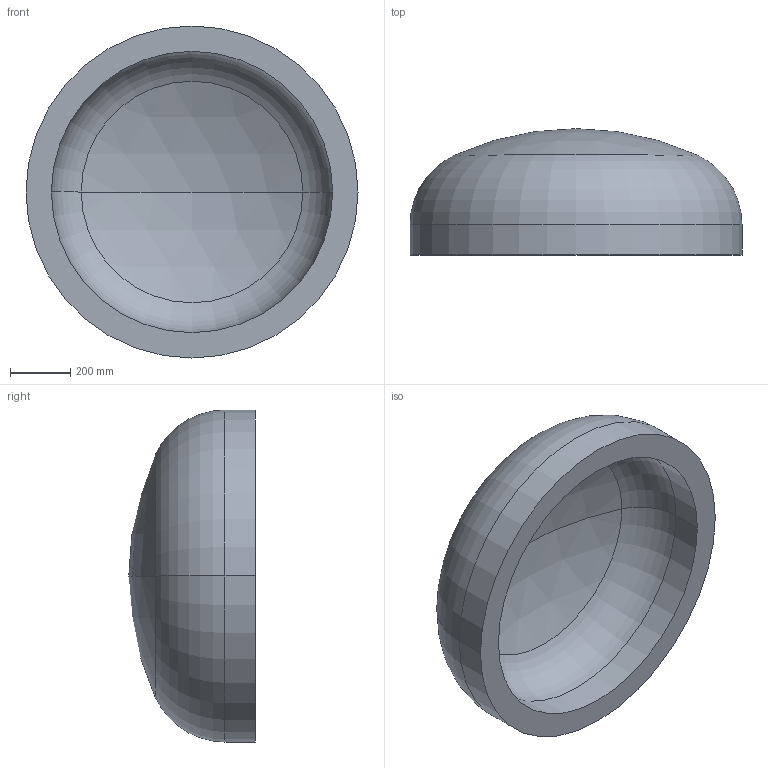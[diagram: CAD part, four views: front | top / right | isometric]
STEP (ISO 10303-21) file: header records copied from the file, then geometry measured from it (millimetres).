
FILE_DESCRIPTION (( 'STEP AP203' ), '1' );
FILE_NAME ('DIN 28013 Korbbogenform_-_Boden DIN 28013 - 1100 x 100 - I - s=84.step', '2016-07-01T09:14:00', ( '' ), ( '' ), 'SwSTEP 2.0', 'SolidWorks 2013', '' );
FILE_SCHEMA (( 'CONFIG_CONTROL_DESIGN' ));
Length unit declared in the file: millimetre
Products named in the file (1): DIN 28013 Korbbogenform_-_Boden DIN 28013 - 1100 x 100 - I - s=84
Bounding box: 1100 x 418.64 x 1100 mm (x, y, z)
Volume: 127314871.5 mm3; surface area: 3314200 mm2
Topology: 1 solids, 1 shells, 13 faces, 24 edges, 14 vertices
Faces by surface type: torus 4, cylinder 4, sphere 4, plane 1
Entity records: 407 total; most frequent: DIRECTION 72, CARTESIAN_POINT 52, ORIENTED_EDGE 48, AXIS2_PLACEMENT_3D 34, EDGE_CURVE 24, CIRCLE 20, VERTEX_POINT 14, EDGE_LOOP 14
